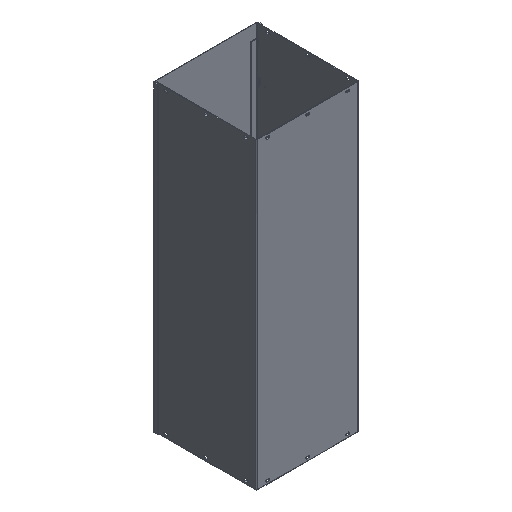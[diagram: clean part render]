
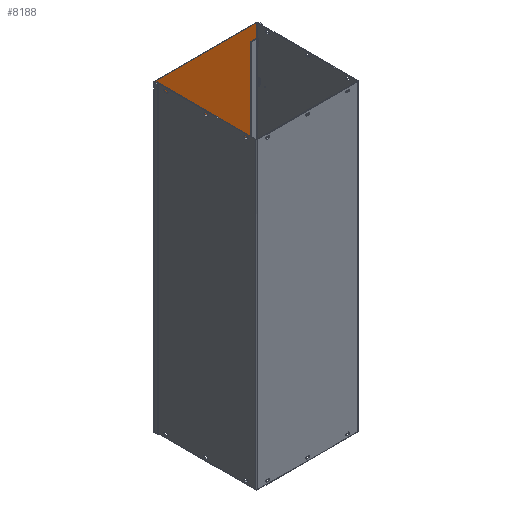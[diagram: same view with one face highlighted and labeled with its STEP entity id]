
A CAD part, isometric view. The second image highlights one B-rep face of the part: STEP entity #8188.
In plain terms, the highlighted free-form (B-spline) face has degree [1, 1] with [2, 2] control points.
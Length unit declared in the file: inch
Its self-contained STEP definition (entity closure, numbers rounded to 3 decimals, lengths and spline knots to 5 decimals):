
#7587=CARTESIAN_POINT('V85',(0.16617,0.498,
   5.97));
#7588=VERTEX_POINT('V85',#7587);
#7596=CARTESIAN_POINT('E129',(0.16617,0.498,
   5.97));
#7597=CARTESIAN_POINT('E129',(0.16617,0.498,
   5.36061));
#7598=CARTESIAN_POINT('E129',(0.69392,0.498,
   5.66531));
#7599=CARTESIAN_POINT('E129',(1.22166,0.498,
   5.97));
#7600=CARTESIAN_POINT('E129',(0.69392,0.498,
   6.27469));
#7601=CARTESIAN_POINT('E129',(0.16617,0.498,
   6.57939));
#7602=CARTESIAN_POINT('E129',(0.16617,0.498,
   5.97));
#7610=(BOUNDED_CURVE()B_SPLINE_CURVE(2,(#7596,#7597,#7598,#7599,
   #7600,#7601,#7602),.CIRCULAR_ARC.,.T.,.U.)
   B_SPLINE_CURVE_WITH_KNOTS((3,2,2,3),(0.0,0.33333,
   0.66667,1.0),.UNSPECIFIED.)CURVE()
   GEOMETRIC_REPRESENTATION_ITEM()RATIONAL_B_SPLINE_CURVE((1.0,
   0.5,1.0,0.5,1.0,0.5,1.0)
   )REPRESENTATION_ITEM('E129'));
#7611=EDGE_CURVE('E129',#7588,#7588,#7610,.T.);
#8065=CARTESIAN_POINT('V71',(0.16617,0.498,
   17.97));
#8066=VERTEX_POINT('V71',#8065);
#8074=CARTESIAN_POINT('E107',(0.16617,0.498,
   17.97));
#8075=CARTESIAN_POINT('E107',(0.16617,0.498,
   17.36061));
#8076=CARTESIAN_POINT('E107',(0.69392,0.498,
   17.66531));
#8077=CARTESIAN_POINT('E107',(1.22166,0.498,
   17.97));
#8078=CARTESIAN_POINT('E107',(0.69392,0.498,
   18.27469));
#8079=CARTESIAN_POINT('E107',(0.16617,0.498,
   18.57939));
#8080=CARTESIAN_POINT('E107',(0.16617,0.498,
   17.97));
#8088=(BOUNDED_CURVE()B_SPLINE_CURVE(2,(#8074,#8075,#8076,#8077,
   #8078,#8079,#8080),.CIRCULAR_ARC.,.T.,.U.)
   B_SPLINE_CURVE_WITH_KNOTS((3,2,2,3),(0.0,0.33333,
   0.66667,1.0),.UNSPECIFIED.)CURVE()
   GEOMETRIC_REPRESENTATION_ITEM()RATIONAL_B_SPLINE_CURVE((1.0,
   0.5,1.0,0.5,1.0,0.5,1.0)
   )REPRESENTATION_ITEM('E107'));
#8089=EDGE_CURVE('E107',#8066,#8066,#8088,.T.);
#8108=CARTESIAN_POINT('V7',(0.08,0.498,0.0)
   );
#8109=VERTEX_POINT('V7',#8108);
#8110=CARTESIAN_POINT('V19',(0.08,0.498,
   35.94));
#8111=VERTEX_POINT('V19',#8110);
#8112=CARTESIAN_POINT('E71',(0.08,0.498,0.0)
   );
#8113=CARTESIAN_POINT('E71',(0.08,0.498,
   35.94));
#8114=QUASI_UNIFORM_CURVE('E71',1,(#8112,#8113),.POLYLINE_FORM.,.F.,
   .U.);
#8115=EDGE_CURVE('E71',#8109,#8111,#8114,.T.);
#8155=CARTESIAN_POINT('F55',(0.07406,0.498,
   -0.00512));
#8156=CARTESIAN_POINT('F55',(0.07406,0.498,
   35.94512));
#8157=CARTESIAN_POINT('F55',(12.21512,0.498,
   -0.00512));
#8158=CARTESIAN_POINT('F55',(12.21512,0.498,
   35.94512));
#8159=B_SPLINE_SURFACE_WITH_KNOTS('F55',1,1,((#8155,#8157),(#8156,
   #8158)),.PLANE_SURF.,.F.,.F.,.U.,(2,2),(2,2),(0.0,
   2.96105),(0.0,1.0),.UNSPECIFIED.);
#8160=CARTESIAN_POINT('V18',(12.21,0.498,
   35.94));
#8161=VERTEX_POINT('V18',#8160);
#8162=CARTESIAN_POINT('V8',(12.21,0.498,0.0)
   );
#8163=VERTEX_POINT('V8',#8162);
#8164=CARTESIAN_POINT('E69',(12.21,0.498,
   35.94));
#8165=CARTESIAN_POINT('E69',(12.21,0.498,
   0.0));
#8166=QUASI_UNIFORM_CURVE('E69',1,(#8164,#8165),.POLYLINE_FORM.,.F.,
   .U.);
#8167=EDGE_CURVE('E69',#8161,#8163,#8166,.T.);
#8168=ORIENTED_EDGE('E69',*,*,#8167,.F.);
#8169=CARTESIAN_POINT('E21',(0.08,0.498,
   35.94));
#8170=CARTESIAN_POINT('E21',(12.21,0.498,
   35.94));
#8171=QUASI_UNIFORM_CURVE('E21',1,(#8169,#8170),.POLYLINE_FORM.,.F.,
   .U.);
#8172=EDGE_CURVE('E21',#8111,#8161,#8171,.T.);
#8173=ORIENTED_EDGE('E21',*,*,#8172,.F.);
#8174=ORIENTED_EDGE('E71',*,*,#8115,.F.);
#8175=CARTESIAN_POINT('E7',(12.21,0.498,0.0)
   );
#8176=CARTESIAN_POINT('E7',(0.08,0.498,0.0)
   );
#8177=QUASI_UNIFORM_CURVE('E7',1,(#8175,#8176),.POLYLINE_FORM.,.F.,
   .U.);
#8178=EDGE_CURVE('E7',#8163,#8109,#8177,.T.);
#8179=ORIENTED_EDGE('E7',*,*,#8178,.F.);
#8180=EDGE_LOOP('F55',(#8168,#8173,#8174,#8179));
#8181=FACE_OUTER_BOUND('F55',#8180,.T.);
#8182=ORIENTED_EDGE('F39',*,*,#8089,.F.);
#8183=EDGE_LOOP('F55',(#8182));
#8184=FACE_BOUND('F55',#8183,.T.);
#8185=ORIENTED_EDGE('F49',*,*,#7611,.F.);
#8186=EDGE_LOOP('F55',(#8185));
#8187=FACE_BOUND('F55',#8186,.T.);
#8188=ADVANCED_FACE('F55',(#8181,#8184,#8187),#8159,.F.);
